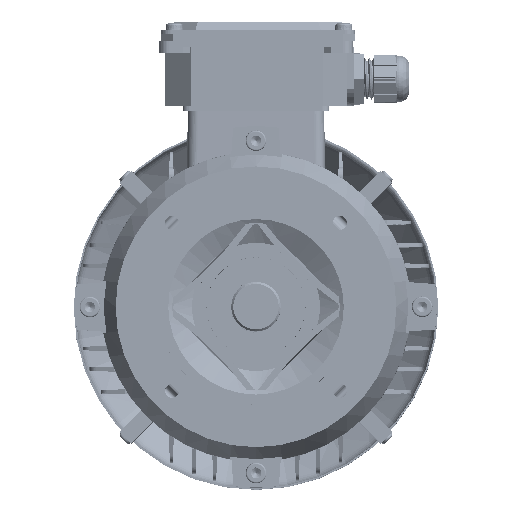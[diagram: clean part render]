
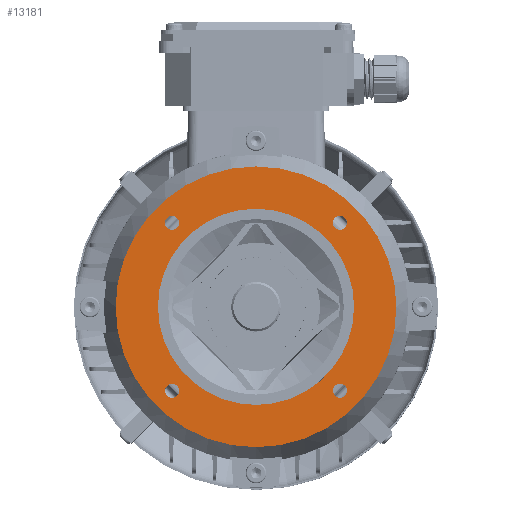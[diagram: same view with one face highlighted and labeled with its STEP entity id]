
A CAD part, top view. The second image highlights one B-rep face of the part: STEP entity #13181.
In plain terms, the highlighted planar face has unit normal (0, 0, 1) as drawn and (0, -1, 0) by its records, which use the part's own axes.
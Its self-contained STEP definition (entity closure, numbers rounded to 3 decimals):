
#153 = DIRECTION ( 'NONE',  ( 0., 0., -1. ) ) ;
#476 = DIRECTION ( 'NONE',  ( 0., 0., -1. ) ) ;
#2054 = VERTEX_POINT ( 'NONE', #121199 ) ;
#3807 = CARTESIAN_POINT ( 'NONE',  ( 40.659, -10., 40.659 ) ) ;
#4136 = EDGE_LOOP ( 'NONE', ( #42278, #92163 ) ) ;
#5205 = DIRECTION ( 'NONE',  ( 0., -1., 0. ) ) ;
#5448 = EDGE_LOOP ( 'NONE', ( #66117, #11474 ) ) ;
#6918 = CIRCLE ( 'NONE', #122176, 3.4 ) ;
#9250 = CIRCLE ( 'NONE', #62838, 68. ) ;
#9478 = CARTESIAN_POINT ( 'NONE',  ( -40.659, -10., -40.659 ) ) ;
#9761 = ORIENTED_EDGE ( 'NONE', *, *, #29423, .F. ) ;
#11348 = ORIENTED_EDGE ( 'NONE', *, *, #110353, .T. ) ;
#11474 = ORIENTED_EDGE ( 'NONE', *, *, #98287, .F. ) ;
#12978 = EDGE_LOOP ( 'NONE', ( #55464, #9761 ) ) ;
#13181 = ADVANCED_FACE ( 'NONE', ( #18575, #15103, #73997, #136413, #100013, #70499 ), #24593, .T. ) ;
#14615 = EDGE_CURVE ( 'NONE', #122849, #64318, #136296, .T. ) ;
#14988 = DIRECTION ( 'NONE',  ( 0., 0., -1. ) ) ;
#15103 = FACE_BOUND ( 'NONE', #12978, .T. ) ;
#15931 = CIRCLE ( 'NONE', #50145, 3.4 ) ;
#18575 = FACE_BOUND ( 'NONE', #5448, .T. ) ;
#20091 = CARTESIAN_POINT ( 'NONE',  ( 40.659, -10., 40.659 ) ) ;
#20576 = DIRECTION ( 'NONE',  ( 0., 0., -1. ) ) ;
#21306 = CIRCLE ( 'NONE', #71708, 3.4 ) ;
#22138 = CARTESIAN_POINT ( 'NONE',  ( -40.659, -10., 37.259 ) ) ;
#23621 = ORIENTED_EDGE ( 'NONE', *, *, #99510, .F. ) ;
#23906 = ORIENTED_EDGE ( 'NONE', *, *, #52794, .F. ) ;
#24593 = PLANE ( 'NONE',  #68445 ) ;
#25587 = CARTESIAN_POINT ( 'NONE',  ( -40.659, -10., -40.659 ) ) ;
#26507 = AXIS2_PLACEMENT_3D ( 'NONE', #9478, #87017, #20576 ) ;
#29031 = CARTESIAN_POINT ( 'NONE',  ( 40.659, -10., 44.059 ) ) ;
#29373 = DIRECTION ( 'NONE',  ( 0., -1., 0. ) ) ;
#29423 = EDGE_CURVE ( 'NONE', #55108, #46352, #15931, .T. ) ;
#31030 = CARTESIAN_POINT ( 'NONE',  ( 40.659, -10., -37.259 ) ) ;
#31262 = DIRECTION ( 'NONE',  ( 0., 0., -1. ) ) ;
#32747 = DIRECTION ( 'NONE',  ( 0., -1., 0. ) ) ;
#35087 = CIRCLE ( 'NONE', #64718, 47.5 ) ;
#36800 = DIRECTION ( 'NONE',  ( 0., 0., -1. ) ) ;
#37020 = EDGE_CURVE ( 'NONE', #64318, #122849, #35087, .T. ) ;
#37861 = CARTESIAN_POINT ( 'NONE',  ( 40.659, -10., -44.059 ) ) ;
#39698 = AXIS2_PLACEMENT_3D ( 'NONE', #40341, #117838, #51491 ) ;
#39944 = CIRCLE ( 'NONE', #136857, 3.4 ) ;
#40341 = CARTESIAN_POINT ( 'NONE',  ( 40.659, -10., -40.659 ) ) ;
#40645 = CARTESIAN_POINT ( 'NONE',  ( 0., -10., 47.5 ) ) ;
#42278 = ORIENTED_EDGE ( 'NONE', *, *, #37020, .F. ) ;
#43031 = VERTEX_POINT ( 'NONE', #22138 ) ;
#44506 = CARTESIAN_POINT ( 'NONE',  ( 47.5, -10., 0. ) ) ;
#46352 = VERTEX_POINT ( 'NONE', #54979 ) ;
#46962 = DIRECTION ( 'NONE',  ( 0., -1., 0. ) ) ;
#48727 = CARTESIAN_POINT ( 'NONE',  ( 40.659, -10., -40.659 ) ) ;
#50102 = DIRECTION ( 'NONE',  ( 0., -1., 0. ) ) ;
#50145 = AXIS2_PLACEMENT_3D ( 'NONE', #3807, #81355, #14988 ) ;
#51410 = VERTEX_POINT ( 'NONE', #120492 ) ;
#51491 = DIRECTION ( 'NONE',  ( 0., 0., -1. ) ) ;
#52794 = EDGE_CURVE ( 'NONE', #78888, #55038, #21306, .T. ) ;
#54979 = CARTESIAN_POINT ( 'NONE',  ( 40.659, -10., 37.259 ) ) ;
#55038 = VERTEX_POINT ( 'NONE', #37861 ) ;
#55108 = VERTEX_POINT ( 'NONE', #29031 ) ;
#55464 = ORIENTED_EDGE ( 'NONE', *, *, #70781, .F. ) ;
#58021 = ORIENTED_EDGE ( 'NONE', *, *, #83666, .F. ) ;
#58060 = CARTESIAN_POINT ( 'NONE',  ( -40.659, -10., 44.059 ) ) ;
#59838 = DIRECTION ( 'NONE',  ( 0., 0., -1. ) ) ;
#62838 = AXIS2_PLACEMENT_3D ( 'NONE', #116429, #50102, #127506 ) ;
#64318 = VERTEX_POINT ( 'NONE', #77303 ) ;
#64718 = AXIS2_PLACEMENT_3D ( 'NONE', #133239, #66876, #476 ) ;
#66117 = ORIENTED_EDGE ( 'NONE', *, *, #140570, .F. ) ;
#66553 = DIRECTION ( 'NONE',  ( 0., -1., 0. ) ) ;
#66876 = DIRECTION ( 'NONE',  ( 0., -1., 0. ) ) ;
#67243 = CIRCLE ( 'NONE', #94227, 3.4 ) ;
#68122 = VERTEX_POINT ( 'NONE', #103920 ) ;
#68445 = AXIS2_PLACEMENT_3D ( 'NONE', #44506, #46962, #124409 ) ;
#68799 = EDGE_LOOP ( 'NONE', ( #58021, #23906 ) ) ;
#70499 = FACE_BOUND ( 'NONE', #4136, .T. ) ;
#70781 = EDGE_CURVE ( 'NONE', #46352, #55108, #67243, .T. ) ;
#71527 = CARTESIAN_POINT ( 'NONE',  ( -40.659, -10., 40.659 ) ) ;
#71708 = AXIS2_PLACEMENT_3D ( 'NONE', #48727, #126147, #59838 ) ;
#73997 = FACE_BOUND ( 'NONE', #118881, .T. ) ;
#76615 = EDGE_LOOP ( 'NONE', ( #11348, #117375 ) ) ;
#77303 = CARTESIAN_POINT ( 'NONE',  ( 0., -10., -47.5 ) ) ;
#78888 = VERTEX_POINT ( 'NONE', #31030 ) ;
#80320 = VERTEX_POINT ( 'NONE', #124398 ) ;
#81355 = DIRECTION ( 'NONE',  ( 0., -1., 0. ) ) ;
#82754 = DIRECTION ( 'NONE',  ( 0., 0., -1. ) ) ;
#83666 = EDGE_CURVE ( 'NONE', #55038, #78888, #93153, .T. ) ;
#84706 = CIRCLE ( 'NONE', #26507, 3.4 ) ;
#87017 = DIRECTION ( 'NONE',  ( 0., -1., 0. ) ) ;
#91949 = AXIS2_PLACEMENT_3D ( 'NONE', #95812, #29373, #106956 ) ;
#92163 = ORIENTED_EDGE ( 'NONE', *, *, #14615, .F. ) ;
#93153 = CIRCLE ( 'NONE', #39698, 3.4 ) ;
#94227 = AXIS2_PLACEMENT_3D ( 'NONE', #20091, #97635, #31262 ) ;
#95812 = CARTESIAN_POINT ( 'NONE',  ( 0., -10., 0. ) ) ;
#97635 = DIRECTION ( 'NONE',  ( 0., -1., 0. ) ) ;
#98287 = EDGE_CURVE ( 'NONE', #140171, #43031, #39944, .T. ) ;
#98413 = ORIENTED_EDGE ( 'NONE', *, *, #135443, .F. ) ;
#99109 = CARTESIAN_POINT ( 'NONE',  ( -40.659, -10., 40.659 ) ) ;
#99510 = EDGE_CURVE ( 'NONE', #2054, #80320, #84706, .T. ) ;
#99628 = EDGE_CURVE ( 'NONE', #51410, #68122, #100214, .T. ) ;
#100013 = FACE_OUTER_BOUND ( 'NONE', #76615, .T. ) ;
#100214 = CIRCLE ( 'NONE', #100796, 68. ) ;
#100796 = AXIS2_PLACEMENT_3D ( 'NONE', #132899, #66553, #153 ) ;
#103144 = DIRECTION ( 'NONE',  ( 0., -1., 0. ) ) ;
#103920 = CARTESIAN_POINT ( 'NONE',  ( 0., -10., 68. ) ) ;
#106956 = DIRECTION ( 'NONE',  ( 0., 0., -1. ) ) ;
#110242 = DIRECTION ( 'NONE',  ( 0., 0., -1. ) ) ;
#110353 = EDGE_CURVE ( 'NONE', #68122, #51410, #9250, .T. ) ;
#112385 = AXIS2_PLACEMENT_3D ( 'NONE', #25587, #103144, #36800 ) ;
#116429 = CARTESIAN_POINT ( 'NONE',  ( 0., -10., 0. ) ) ;
#117375 = ORIENTED_EDGE ( 'NONE', *, *, #99628, .T. ) ;
#117838 = DIRECTION ( 'NONE',  ( 0., -1., 0. ) ) ;
#118881 = EDGE_LOOP ( 'NONE', ( #23621, #98413 ) ) ;
#120492 = CARTESIAN_POINT ( 'NONE',  ( 0., -10., -68. ) ) ;
#121199 = CARTESIAN_POINT ( 'NONE',  ( -40.659, -10., -44.059 ) ) ;
#122176 = AXIS2_PLACEMENT_3D ( 'NONE', #99109, #32747, #110242 ) ;
#122849 = VERTEX_POINT ( 'NONE', #40645 ) ;
#124398 = CARTESIAN_POINT ( 'NONE',  ( -40.659, -10., -37.259 ) ) ;
#124409 = DIRECTION ( 'NONE',  ( 0., 0., -1. ) ) ;
#126147 = DIRECTION ( 'NONE',  ( 0., -1., 0. ) ) ;
#127506 = DIRECTION ( 'NONE',  ( 0., 0., -1. ) ) ;
#132899 = CARTESIAN_POINT ( 'NONE',  ( 0., -10., 0. ) ) ;
#133239 = CARTESIAN_POINT ( 'NONE',  ( 0., -10., 0. ) ) ;
#135443 = EDGE_CURVE ( 'NONE', #80320, #2054, #139458, .T. ) ;
#136296 = CIRCLE ( 'NONE', #91949, 47.5 ) ;
#136413 = FACE_BOUND ( 'NONE', #68799, .T. ) ;
#136857 = AXIS2_PLACEMENT_3D ( 'NONE', #71527, #5205, #82754 ) ;
#139458 = CIRCLE ( 'NONE', #112385, 3.4 ) ;
#140171 = VERTEX_POINT ( 'NONE', #58060 ) ;
#140570 = EDGE_CURVE ( 'NONE', #43031, #140171, #6918, .T. ) ;
